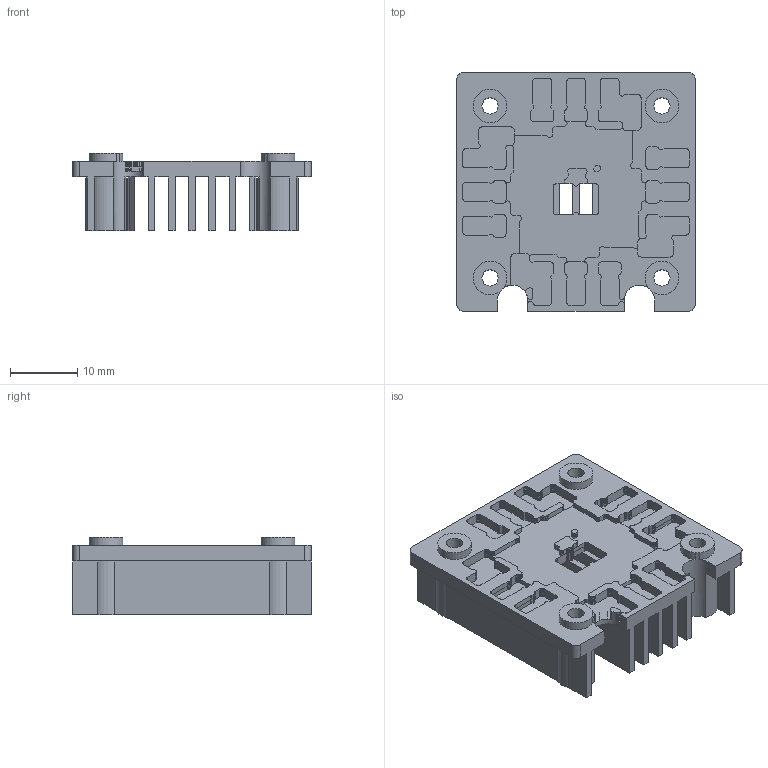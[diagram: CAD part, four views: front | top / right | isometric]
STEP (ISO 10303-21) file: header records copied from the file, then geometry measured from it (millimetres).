
FILE_DESCRIPTION(('Open CASCADE Model'),'2;1');
FILE_NAME('Open CASCADE Shape Model','2026-10-03T13:47:06',('Author'),( 'Open CASCADE'),'Open CASCADE STEP processor 7.9','Open CASCADE 7.9' ,'Unknown');
FILE_SCHEMA(('AUTOMOTIVE_DESIGN { 1 0 10303 214 1 1 1 1 }'));
Products named in the file (1): Open CASCADE STEP translator 7.9 1
Bounding box: 35.4 x 35.4 x 11.55 mm (x, y, z)
Volume: 5369.8 mm3; surface area: 9263.9 mm2
Topology: 1 solids, 1 shells, 1746 faces, 5133 edges, 3396 vertices
Faces by surface type: plane 1716, cylinder 30
Full cylindrical faces by diameter (mm): 2.4 x4, 5 x2
Entity records: 118955 total; most frequent: CARTESIAN_POINT 25510, DIRECTION 14208, LINE 10521, VECTOR 10521, ORIENTED_EDGE 10266, PCURVE 10266, DEFINITIONAL_REPRESENTATION 10266, EDGE_CURVE 5133
